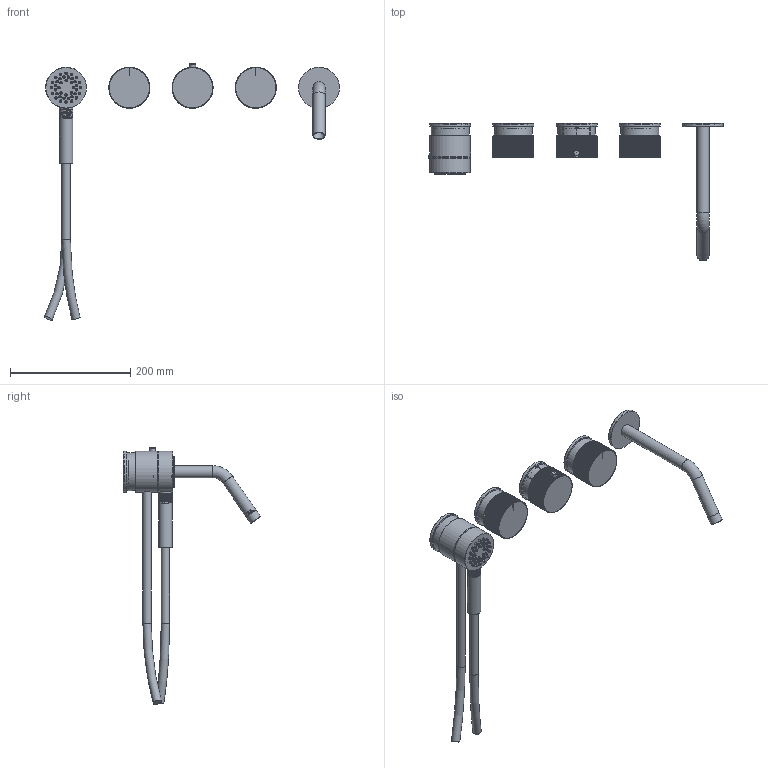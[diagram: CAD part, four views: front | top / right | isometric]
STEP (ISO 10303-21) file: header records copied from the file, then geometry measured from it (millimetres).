
FILE_DESCRIPTION(/* description */ ('Unknown'),/* implementation_level */ '2;1');
FILE_NAME(/* name */ 'RE029',/* time_stamp */ '2023-07-10T08:03:08+02:00',/* author */ ('Unknown'),/* organization */ ('Unknown'),/* preprocessor_version */ 'ST-DEVELOPER v18.102',/* originating_system */ 'Solid Edge',/* authorisation */ 'Unknown');
FILE_SCHEMA (('AUTOMOTIVE_DESIGN {1 0 10303 214 3 1 1}'));
Length unit declared in the file: millimetre
Products named in the file (21): RE029-011; RE025-001_oa_0; RE025-06; RE025-07; RE025-05; RE025-03; RE029-04; RE029-01; RE029-02; RE029-12; RE029-07; 01.5175.000_oa_1; 01.5175.000_1; RE032_oa_2; C063172_22300FE; C039115_22300VC; A064042_12923ZZ; C020053_166B2ZZ; C101030_22300VC; RE032-001_oa_3; tubo flessibile
Assembly tree (23 placements, depth 4):
  RE029-011
    RE025-001_oa_0
      RE025-06
      RE025-07
    RE025-05  x2
    RE025-03
    RE029-04  x3
    RE029-01
    RE029-02
    RE029-12
    RE029-07
    01.5175.000_oa_1
      01.5175.000_1
    RE032_oa_2
      C063172_22300FE
      C039115_22300VC
      A064042_12923ZZ
      C020053_166B2ZZ
      C101030_22300VC
      RE032-001_oa_3
        tubo flessibile
Bounding box: 489.87 x 228.13 x 426.33 mm (x, y, z)
Volume: 409567.3 mm3; surface area: 287076.8 mm2
Topology: 20 solids, 20 shells, 3711 faces, 8525 edges, 4966 vertices
Faces by surface type: plane 1443, cone 1262, cylinder 827, torus 110, bspline 68, sphere 1
Full cylindrical faces by diameter (mm): 3.242 x3, 3.3 x20, 4 x41, 4.1 x1, 4.3 x1, 4.5 x1, 4.917 x3, 5 x1, 6 x1, 6.5 x3, 7.5 x1, 9.95 x1, 10 x4, 10.1 x2, 11.2 x1, 12 x1, 12.1 x3, 12.196 x1, 12.5 x1, 13.3 x1, 13.464 x1, 13.5 x1, 14 x3, 14.5 x1, 14.577 x1, 15 x4, 15.033 x1, 15.218 x1, 15.229 x1, 15.3 x1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
Entity records: 97814 total; most frequent: CARTESIAN_POINT 26337, DIRECTION 11353, ORIENTED_EDGE 11026, EDGE_CURVE 5513, AXIS2_PLACEMENT_3D 4929, VERTEX_POINT 3393, FACE_BOUND 3384, EDGE_LOOP 3379
